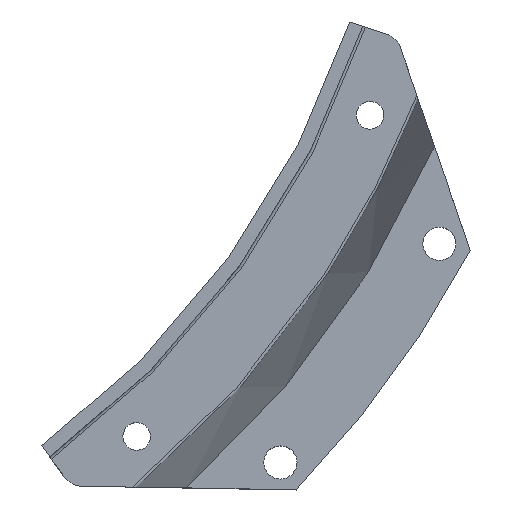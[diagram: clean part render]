
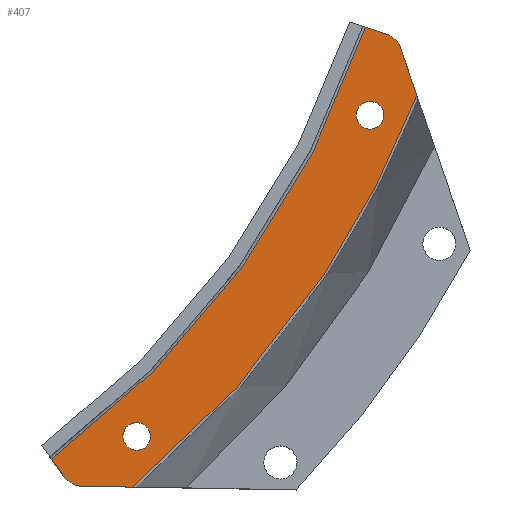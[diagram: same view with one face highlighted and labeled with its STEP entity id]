
A CAD part, top view. The second image highlights one B-rep face of the part: STEP entity #407.
In plain terms, the highlighted planar face has unit normal (0, 0, 1).
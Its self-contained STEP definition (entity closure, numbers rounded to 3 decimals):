
#170=VECTOR('Line Direction',#169,1.) ;
#214=VECTOR('Line Direction',#213,1.) ;
#122=DIRECTION('Axis2P3D Direction',(0.,0.,-1.)) ;
#169=DIRECTION('Vector Direction',(0.588,-0.809,0.)) ;
#213=DIRECTION('Vector Direction',(0.951,-0.309,0.)) ;
#261=DIRECTION('Axis2P3D Direction',(0.,0.,1.)) ;
#273=DIRECTION('Axis2P3D Direction',(0.,-0.,-1.)) ;
#274=DIRECTION('Axis2P3D XDirection',(1.,0.,0.)) ;
#118=CARTESIAN_POINT('Vertex',(1208.559,-848.448,94.)) ;
#121=CARTESIAN_POINT('Axis2P3D Location',(1114.,-720.,94.)) ;
#125=CARTESIAN_POINT('Vertex',(1265.382,-770.238,94.)) ;
#165=CARTESIAN_POINT('Vertex',(1210.916,-851.692,94.)) ;
#168=CARTESIAN_POINT('Line Origine',(1209.15,-849.261,94.)) ;
#212=CARTESIAN_POINT('Line Origine',(1266.337,-770.549,94.)) ;
#216=CARTESIAN_POINT('Vertex',(1269.195,-771.478,94.)) ;
#252=CARTESIAN_POINT('Vertex',(1271.741,-773.979,94.)) ;
#260=CARTESIAN_POINT('Axis2P3D Location',(1267.959,-775.282,94.)) ;
#272=CARTESIAN_POINT('Axis2P3D Location',(1293.,-720.,94.)) ;
#278=CARTESIAN_POINT('Control Point',(1214.082,-853.34,94.)) ;
#279=CARTESIAN_POINT('Control Point',(1213.157,-853.324,94.)) ;
#280=CARTESIAN_POINT('Control Point',(1212.236,-853.022,94.)) ;
#281=CARTESIAN_POINT('Control Point',(1211.46,-852.441,94.)) ;
#282=CARTESIAN_POINT('Control Point',(1210.916,-851.692,94.)) ;
#283=CARTESIAN_POINT('Vertex',(1214.082,-853.34,94.)) ;
#287=CARTESIAN_POINT('Control Point',(1223.184,-853.499,94.)) ;
#288=CARTESIAN_POINT('Control Point',(1214.082,-853.34,94.)) ;
#289=CARTESIAN_POINT('Vertex',(1223.184,-853.499,94.)) ;
#293=CARTESIAN_POINT('Control Point',(1223.184,-853.499,94.)) ;
#294=CARTESIAN_POINT('Control Point',(1240.337,-839.471,94.)) ;
#295=CARTESIAN_POINT('Control Point',(1255.087,-822.502,94.)) ;
#296=CARTESIAN_POINT('Control Point',(1266.665,-803.232,94.)) ;
#297=CARTESIAN_POINT('Control Point',(1274.705,-782.587,94.)) ;
#298=CARTESIAN_POINT('Vertex',(1274.705,-782.587,94.)) ;
#302=CARTESIAN_POINT('Control Point',(1271.741,-773.979,94.)) ;
#303=CARTESIAN_POINT('Control Point',(1274.705,-782.587,94.)) ;
#316=CARTESIAN_POINT('Control Point',(1221.496,-844.397,94.)) ;
#317=CARTESIAN_POINT('Control Point',(1221.474,-843.612,94.)) ;
#318=CARTESIAN_POINT('Control Point',(1221.759,-842.818,94.)) ;
#319=CARTESIAN_POINT('Control Point',(1222.362,-842.179,94.)) ;
#320=CARTESIAN_POINT('Control Point',(1223.139,-841.85,94.)) ;
#321=CARTESIAN_POINT('Control Point',(1223.924,-841.828,94.)) ;
#322=CARTESIAN_POINT('Vertex',(1221.496,-844.397,94.)) ;
#324=CARTESIAN_POINT('Vertex',(1223.924,-841.828,94.)) ;
#328=CARTESIAN_POINT('Control Point',(1223.924,-841.828,94.)) ;
#329=CARTESIAN_POINT('Control Point',(1224.709,-841.805,94.)) ;
#330=CARTESIAN_POINT('Control Point',(1225.504,-842.091,94.)) ;
#331=CARTESIAN_POINT('Control Point',(1226.142,-842.694,94.)) ;
#332=CARTESIAN_POINT('Control Point',(1226.472,-843.471,94.)) ;
#333=CARTESIAN_POINT('Control Point',(1226.494,-844.256,94.)) ;
#334=CARTESIAN_POINT('Vertex',(1226.494,-844.256,94.)) ;
#338=CARTESIAN_POINT('Control Point',(1226.494,-844.256,94.)) ;
#339=CARTESIAN_POINT('Control Point',(1226.516,-845.041,94.)) ;
#340=CARTESIAN_POINT('Control Point',(1226.231,-845.836,94.)) ;
#341=CARTESIAN_POINT('Control Point',(1225.628,-846.474,94.)) ;
#342=CARTESIAN_POINT('Control Point',(1224.851,-846.803,94.)) ;
#343=CARTESIAN_POINT('Control Point',(1224.066,-846.826,94.)) ;
#344=CARTESIAN_POINT('Vertex',(1224.066,-846.826,94.)) ;
#348=CARTESIAN_POINT('Control Point',(1224.066,-846.826,94.)) ;
#349=CARTESIAN_POINT('Control Point',(1223.28,-846.848,94.)) ;
#350=CARTESIAN_POINT('Control Point',(1222.486,-846.563,94.)) ;
#351=CARTESIAN_POINT('Control Point',(1221.848,-845.959,94.)) ;
#352=CARTESIAN_POINT('Control Point',(1221.518,-845.182,94.)) ;
#353=CARTESIAN_POINT('Control Point',(1221.496,-844.397,94.)) ;
#362=CARTESIAN_POINT('Control Point',(1263.737,-786.343,94.)) ;
#363=CARTESIAN_POINT('Control Point',(1263.689,-785.559,94.)) ;
#364=CARTESIAN_POINT('Control Point',(1263.949,-784.756,94.)) ;
#365=CARTESIAN_POINT('Control Point',(1264.531,-784.098,94.)) ;
#366=CARTESIAN_POINT('Control Point',(1265.297,-783.744,94.)) ;
#367=CARTESIAN_POINT('Control Point',(1266.081,-783.697,94.)) ;
#368=CARTESIAN_POINT('Vertex',(1263.737,-786.343,94.)) ;
#370=CARTESIAN_POINT('Vertex',(1266.081,-783.697,94.)) ;
#374=CARTESIAN_POINT('Control Point',(1266.081,-783.697,94.)) ;
#375=CARTESIAN_POINT('Control Point',(1266.865,-783.65,94.)) ;
#376=CARTESIAN_POINT('Control Point',(1267.669,-783.909,94.)) ;
#377=CARTESIAN_POINT('Control Point',(1268.326,-784.492,94.)) ;
#378=CARTESIAN_POINT('Control Point',(1268.68,-785.258,94.)) ;
#379=CARTESIAN_POINT('Control Point',(1268.727,-786.042,94.)) ;
#380=CARTESIAN_POINT('Vertex',(1268.727,-786.042,94.)) ;
#384=CARTESIAN_POINT('Control Point',(1268.727,-786.042,94.)) ;
#385=CARTESIAN_POINT('Control Point',(1268.775,-786.826,94.)) ;
#386=CARTESIAN_POINT('Control Point',(1268.515,-787.629,94.)) ;
#387=CARTESIAN_POINT('Control Point',(1267.933,-788.286,94.)) ;
#388=CARTESIAN_POINT('Control Point',(1267.166,-788.641,94.)) ;
#389=CARTESIAN_POINT('Control Point',(1266.383,-788.688,94.)) ;
#390=CARTESIAN_POINT('Vertex',(1266.383,-788.688,94.)) ;
#394=CARTESIAN_POINT('Control Point',(1266.383,-788.688,94.)) ;
#395=CARTESIAN_POINT('Control Point',(1265.599,-788.735,94.)) ;
#396=CARTESIAN_POINT('Control Point',(1264.795,-788.475,94.)) ;
#397=CARTESIAN_POINT('Control Point',(1264.138,-787.893,94.)) ;
#398=CARTESIAN_POINT('Control Point',(1263.784,-787.127,94.)) ;
#399=CARTESIAN_POINT('Control Point',(1263.737,-786.343,94.)) ;
#123=AXIS2_PLACEMENT_3D('Circle Axis2P3D',#121,#122,$) ;
#262=AXIS2_PLACEMENT_3D('Circle Axis2P3D',#260,#261,$) ;
#275=AXIS2_PLACEMENT_3D('Plane Axis2P3D',#272,#273,#274) ;
#360=FACE_BOUND('',#355,.T.) ;
#406=FACE_BOUND('',#401,.T.) ;
#127=EDGE_CURVE('',#119,#126,#124,.F.) ;
#172=EDGE_CURVE('',#119,#166,#171,.T.) ;
#218=EDGE_CURVE('',#126,#217,#215,.T.) ;
#264=EDGE_CURVE('',#217,#253,#263,.F.) ;
#285=EDGE_CURVE('',#166,#284,#277,.F.) ;
#291=EDGE_CURVE('',#290,#284,#286,.T.) ;
#300=EDGE_CURVE('',#299,#290,#292,.F.) ;
#304=EDGE_CURVE('',#253,#299,#301,.T.) ;
#326=EDGE_CURVE('',#323,#325,#315,.T.) ;
#336=EDGE_CURVE('',#335,#325,#327,.F.) ;
#346=EDGE_CURVE('',#345,#335,#337,.F.) ;
#354=EDGE_CURVE('',#345,#323,#347,.T.) ;
#372=EDGE_CURVE('',#369,#371,#361,.T.) ;
#382=EDGE_CURVE('',#381,#371,#373,.F.) ;
#392=EDGE_CURVE('',#391,#381,#383,.F.) ;
#400=EDGE_CURVE('',#391,#369,#393,.T.) ;
#276=PLANE('Plane',#275) ;
#306=ORIENTED_EDGE('',*,*,#127,.F.) ;
#307=ORIENTED_EDGE('',*,*,#172,.T.) ;
#308=ORIENTED_EDGE('',*,*,#285,.T.) ;
#309=ORIENTED_EDGE('',*,*,#291,.F.) ;
#310=ORIENTED_EDGE('',*,*,#300,.F.) ;
#311=ORIENTED_EDGE('',*,*,#304,.F.) ;
#312=ORIENTED_EDGE('',*,*,#264,.F.) ;
#313=ORIENTED_EDGE('',*,*,#218,.F.) ;
#356=ORIENTED_EDGE('',*,*,#326,.T.) ;
#357=ORIENTED_EDGE('',*,*,#336,.F.) ;
#358=ORIENTED_EDGE('',*,*,#346,.F.) ;
#359=ORIENTED_EDGE('',*,*,#354,.T.) ;
#402=ORIENTED_EDGE('',*,*,#372,.T.) ;
#403=ORIENTED_EDGE('',*,*,#382,.F.) ;
#404=ORIENTED_EDGE('',*,*,#392,.F.) ;
#405=ORIENTED_EDGE('',*,*,#400,.T.) ;
#171=LINE('Line',#168,#170) ;
#215=LINE('Line',#212,#214) ;
#407=ADVANCED_FACE('CNC 20240618',(#314,#360,#406),#276,.F.) ;
#124=CIRCLE('generated circle',#123,159.5) ;
#263=CIRCLE('generated circle',#262,4.) ;
#119=VERTEX_POINT('',#118) ;
#126=VERTEX_POINT('',#125) ;
#166=VERTEX_POINT('',#165) ;
#217=VERTEX_POINT('',#216) ;
#253=VERTEX_POINT('',#252) ;
#284=VERTEX_POINT('',#283) ;
#290=VERTEX_POINT('',#289) ;
#299=VERTEX_POINT('',#298) ;
#323=VERTEX_POINT('',#322) ;
#325=VERTEX_POINT('',#324) ;
#335=VERTEX_POINT('',#334) ;
#345=VERTEX_POINT('',#344) ;
#369=VERTEX_POINT('',#368) ;
#371=VERTEX_POINT('',#370) ;
#381=VERTEX_POINT('',#380) ;
#391=VERTEX_POINT('',#390) ;
#277=B_SPLINE_CURVE_WITH_KNOTS('',4,(#278,#279,#280,#281,#282),.UNSPECIFIED.,.F.,.U.,(5,5),(6.353,10.053),.UNSPECIFIED.) ;
#286=B_SPLINE_CURVE_WITH_KNOTS('',1,(#287,#288),.UNSPECIFIED.,.F.,.U.,(2,2),(-4.281,4.822),.UNSPECIFIED.) ;
#292=B_SPLINE_CURVE_WITH_KNOTS('',4,(#293,#294,#295,#296,#297),.UNSPECIFIED.,.F.,.U.,(5,5),(42.309,168.938),.UNSPECIFIED.) ;
#301=B_SPLINE_CURVE_WITH_KNOTS('',1,(#302,#303),.UNSPECIFIED.,.F.,.U.,(2,2),(-4.822,4.281),.UNSPECIFIED.) ;
#315=B_SPLINE_CURVE_WITH_KNOTS('',5,(#316,#317,#318,#319,#320,#321),.UNSPECIFIED.,.F.,.U.,(6,6),(7.783,11.71),.UNSPECIFIED.) ;
#327=B_SPLINE_CURVE_WITH_KNOTS('',5,(#328,#329,#330,#331,#332,#333),.UNSPECIFIED.,.F.,.U.,(6,6),(11.71,15.637),.UNSPECIFIED.) ;
#337=B_SPLINE_CURVE_WITH_KNOTS('',5,(#338,#339,#340,#341,#342,#343),.UNSPECIFIED.,.F.,.U.,(6,6),(15.637,19.564),.UNSPECIFIED.) ;
#347=B_SPLINE_CURVE_WITH_KNOTS('',5,(#348,#349,#350,#351,#352,#353),.UNSPECIFIED.,.F.,.U.,(6,6),(3.856,7.783),.UNSPECIFIED.) ;
#361=B_SPLINE_CURVE_WITH_KNOTS('',5,(#362,#363,#364,#365,#366,#367),.UNSPECIFIED.,.F.,.U.,(6,6),(7.703,11.63),.UNSPECIFIED.) ;
#373=B_SPLINE_CURVE_WITH_KNOTS('',5,(#374,#375,#376,#377,#378,#379),.UNSPECIFIED.,.F.,.U.,(6,6),(11.63,15.557),.UNSPECIFIED.) ;
#383=B_SPLINE_CURVE_WITH_KNOTS('',5,(#384,#385,#386,#387,#388,#389),.UNSPECIFIED.,.F.,.U.,(6,6),(15.557,19.484),.UNSPECIFIED.) ;
#393=B_SPLINE_CURVE_WITH_KNOTS('',5,(#394,#395,#396,#397,#398,#399),.UNSPECIFIED.,.F.,.U.,(6,6),(3.776,7.703),.UNSPECIFIED.) ;
#305=EDGE_LOOP('',(#306,#307,#308,#309,#310,#311,#312,#313)) ;
#355=EDGE_LOOP('',(#356,#357,#358,#359)) ;
#401=EDGE_LOOP('',(#402,#403,#404,#405)) ;
#314=FACE_OUTER_BOUND('',#305,.T.) ;
